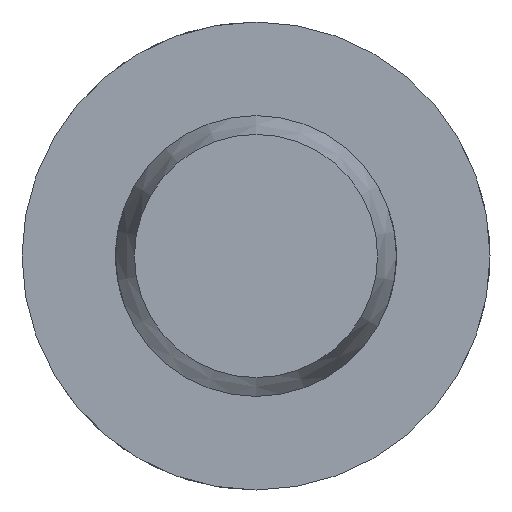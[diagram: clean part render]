
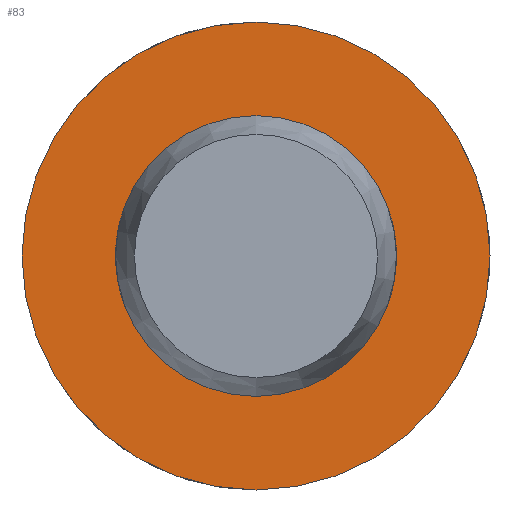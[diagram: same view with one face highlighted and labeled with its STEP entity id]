
A CAD part, left-side view. The second image highlights one B-rep face of the part: STEP entity #83.
In plain terms, the highlighted planar face has unit normal (-1, 0, 0).
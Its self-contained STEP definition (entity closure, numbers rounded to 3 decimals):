
#83 = ADVANCED_FACE( '', ( #128, #129 ), #130, .F. );
#128 = FACE_OUTER_BOUND( '', #205, .T. );
#129 = FACE_BOUND( '', #206, .T. );
#130 = PLANE( '', #207 );
#205 = EDGE_LOOP( '', ( #320 ) );
#206 = EDGE_LOOP( '', ( #321 ) );
#207 = AXIS2_PLACEMENT_3D( '', #322, #323, #324 );
#320 = ORIENTED_EDGE( '', *, *, #484, .F. );
#321 = ORIENTED_EDGE( '', *, *, #474, .T. );
#322 = CARTESIAN_POINT( '', ( 35.6, 6., 0. ) );
#323 = DIRECTION( '', ( 1., 0., 0. ) );
#324 = DIRECTION( '', ( 0., 0., -1. ) );
#474 = EDGE_CURVE( '', #545, #545, #546, .T. );
#484 = EDGE_CURVE( '', #563, #563, #564, .T. );
#545 = VERTEX_POINT( '', #734 );
#546 = CIRCLE( '', #735, 6. );
#563 = VERTEX_POINT( '', #903 );
#564 = CIRCLE( '', #904, 10. );
#734 = CARTESIAN_POINT( '', ( 35.6, 0., -6. ) );
#735 = AXIS2_PLACEMENT_3D( '', #965, #966, #967 );
#903 = CARTESIAN_POINT( '', ( 35.6, 0., -10. ) );
#904 = AXIS2_PLACEMENT_3D( '', #986, #987, #988 );
#965 = CARTESIAN_POINT( '', ( 35.6, 0., 0. ) );
#966 = DIRECTION( '', ( 1., 0., 0. ) );
#967 = DIRECTION( '', ( 0., 0., -1. ) );
#986 = CARTESIAN_POINT( '', ( 35.6, 0., 0. ) );
#987 = DIRECTION( '', ( 1., 0., 0. ) );
#988 = DIRECTION( '', ( 0., 0., -1. ) );
